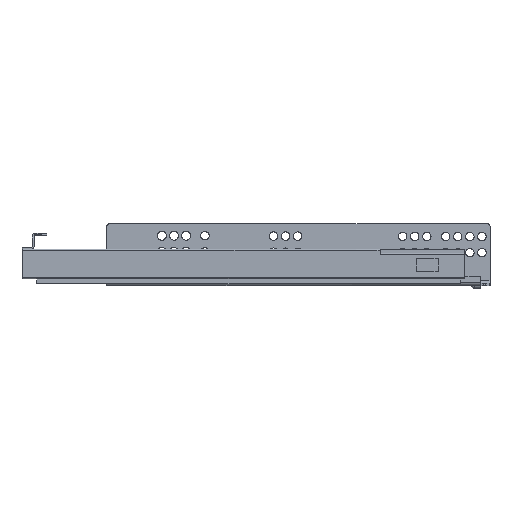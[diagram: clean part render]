
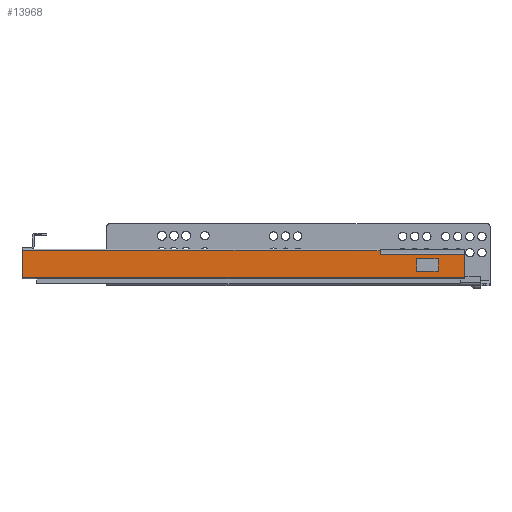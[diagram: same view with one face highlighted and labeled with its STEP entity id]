
A CAD part, top view. The second image highlights one B-rep face of the part: STEP entity #13968.
In plain terms, the highlighted planar face has unit normal (0, 0, 1).
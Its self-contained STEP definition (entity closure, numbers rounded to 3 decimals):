
#201 = CARTESIAN_POINT ( 'NONE',  ( 78.8, 10., 92.03 ) ) ;
#248 = EDGE_CURVE ( 'NONE', #11210, #11890, #13727, .T. ) ;
#454 = CARTESIAN_POINT ( 'NONE',  ( 58.9, 20., 92.03 ) ) ;
#570 = VERTEX_POINT ( 'NONE', #10539 ) ;
#658 = EDGE_CURVE ( 'NONE', #13321, #6454, #8903, .T. ) ;
#726 = EDGE_CURVE ( 'NONE', #570, #10267, #4033, .T. ) ;
#818 = CARTESIAN_POINT ( 'NONE',  ( -250.5, 28.47, 92.03 ) ) ;
#819 = VERTEX_POINT ( 'NONE', #5422 ) ;
#1014 = EDGE_CURVE ( 'NONE', #6348, #3933, #9754, .T. ) ;
#1160 = LINE ( 'NONE', #11801, #4084 ) ;
#1330 = PLANE ( 'NONE',  #7016 ) ;
#1557 = EDGE_CURVE ( 'NONE', #1791, #3933, #10288, .T. ) ;
#1577 = DIRECTION ( 'NONE',  ( 1., 0., 0. ) ) ;
#1582 = CARTESIAN_POINT ( 'NONE',  ( 8.8, 26., 92.03 ) ) ;
#1583 = CARTESIAN_POINT ( 'NONE',  ( -89.874, 26.03, 92.03 ) ) ;
#1791 = VERTEX_POINT ( 'NONE', #9990 ) ;
#1972 = EDGE_LOOP ( 'NONE', ( #7336, #8027, #6189, #11877, #5140, #11056, #10042, #12791, #8366, #10331 ) ) ;
#1978 = CARTESIAN_POINT ( 'NONE',  ( 8.8, 26.02, 92.03 ) ) ;
#2023 = CARTESIAN_POINT ( 'NONE',  ( 8.8, 26.03, 92.03 ) ) ;
#2028 = CARTESIAN_POINT ( 'NONE',  ( -150.5, 23.03, 92.03 ) ) ;
#2223 = ORIENTED_EDGE ( 'NONE', *, *, #8202, .T. ) ;
#2368 = CARTESIAN_POINT ( 'NONE',  ( -89.874, 26.03, 92.03 ) ) ;
#2435 = DIRECTION ( 'NONE',  ( 0., 0., 1. ) ) ;
#2536 = DIRECTION ( 'NONE',  ( -1., 0., 0. ) ) ;
#2560 = LINE ( 'NONE', #10114, #5815 ) ;
#2697 = DIRECTION ( 'NONE',  ( 0., 1., 0. ) ) ;
#2970 = B_SPLINE_CURVE_WITH_KNOTS ( 'NONE', 3,
 ( #13997, #6335, #1978, #9633 ),
 .UNSPECIFIED., .F., .F.,
 ( 4, 4 ),
 ( 0., 1. ),
 .UNSPECIFIED. ) ;
#3217 = EDGE_CURVE ( 'NONE', #10267, #11890, #11694, .T. ) ;
#3488 = CARTESIAN_POINT ( 'NONE',  ( -199.68, 26.03, 92.03 ) ) ;
#3560 = DIRECTION ( 'NONE',  ( -1., 0., 0. ) ) ;
#3933 = VERTEX_POINT ( 'NONE', #12019 ) ;
#4033 = B_SPLINE_CURVE_WITH_KNOTS ( 'NONE', 3,
 ( #2368, #8928, #10038, #3488 ),
 .UNSPECIFIED., .F., .F.,
 ( 4, 4 ),
 ( 0.36, 0.625 ),
 .UNSPECIFIED. ) ;
#4084 = VECTOR ( 'NONE', #4159, 1000. ) ;
#4159 = DIRECTION ( 'NONE',  ( 0., 1., 0. ) ) ;
#4303 = CARTESIAN_POINT ( 'NONE',  ( -250.5, 26.03, 92.03 ) ) ;
#4457 = VERTEX_POINT ( 'NONE', #4925 ) ;
#4519 = VECTOR ( 'NONE', #2536, 1000. ) ;
#4844 = CARTESIAN_POINT ( 'NONE',  ( -24.091, 26.03, 92.03 ) ) ;
#4925 = CARTESIAN_POINT ( 'NONE',  ( 42.9, 10.5, 92.03 ) ) ;
#5140 = ORIENTED_EDGE ( 'NONE', *, *, #726, .T. ) ;
#5295 = LINE ( 'NONE', #2028, #11608 ) ;
#5422 = CARTESIAN_POINT ( 'NONE',  ( 78.8, 23.03, 92.03 ) ) ;
#5578 = CARTESIAN_POINT ( 'NONE',  ( 42.9, 20., 92.03 ) ) ;
#5616 = VECTOR ( 'NONE', #1577, 1000. ) ;
#5724 = LINE ( 'NONE', #201, #11546 ) ;
#5763 = DIRECTION ( 'NONE',  ( 1., 0., 0. ) ) ;
#5775 = CARTESIAN_POINT ( 'NONE',  ( 58.9, 20., 92.03 ) ) ;
#5815 = VECTOR ( 'NONE', #3560, 1000. ) ;
#6000 = VECTOR ( 'NONE', #6622, 1000. ) ;
#6189 = ORIENTED_EDGE ( 'NONE', *, *, #13121, .T. ) ;
#6335 = CARTESIAN_POINT ( 'NONE',  ( 8.8, 26.01, 92.03 ) ) ;
#6348 = VERTEX_POINT ( 'NONE', #1582 ) ;
#6401 = CARTESIAN_POINT ( 'NONE',  ( -199.68, 26.03, 92.03 ) ) ;
#6454 = VERTEX_POINT ( 'NONE', #9498 ) ;
#6622 = DIRECTION ( 'NONE',  ( 0., -1., 0. ) ) ;
#6785 = CARTESIAN_POINT ( 'NONE',  ( -334.252, 23.03, 92.03 ) ) ;
#7016 = AXIS2_PLACEMENT_3D ( 'NONE', #6785, #2435, #10100 ) ;
#7270 = CARTESIAN_POINT ( 'NONE',  ( 78.8, 5.9, 92.03 ) ) ;
#7336 = ORIENTED_EDGE ( 'NONE', *, *, #1557, .T. ) ;
#7355 = ORIENTED_EDGE ( 'NONE', *, *, #8387, .T. ) ;
#7548 = VECTOR ( 'NONE', #13995, 1000. ) ;
#7571 = CARTESIAN_POINT ( 'NONE',  ( -250.5, 26.03, 92.03 ) ) ;
#7762 = FACE_OUTER_BOUND ( 'NONE', #1972, .T. ) ;
#7800 = CARTESIAN_POINT ( 'NONE',  ( -199.68, 26.03, 92.03 ) ) ;
#7882 = DIRECTION ( 'NONE',  ( 0., 1., 0. ) ) ;
#8027 = ORIENTED_EDGE ( 'NONE', *, *, #1014, .F. ) ;
#8134 = CARTESIAN_POINT ( 'NONE',  ( -56.983, 26.03, 92.03 ) ) ;
#8202 = EDGE_CURVE ( 'NONE', #6454, #4457, #2560, .T. ) ;
#8366 = ORIENTED_EDGE ( 'NONE', *, *, #13223, .T. ) ;
#8387 = EDGE_CURVE ( 'NONE', #4457, #8464, #1160, .T. ) ;
#8464 = VERTEX_POINT ( 'NONE', #5578 ) ;
#8526 = LINE ( 'NONE', #454, #5616 ) ;
#8570 = EDGE_CURVE ( 'NONE', #8464, #13321, #8526, .T. ) ;
#8653 = EDGE_LOOP ( 'NONE', ( #11751, #2223, #7355, #9558 ) ) ;
#8903 = LINE ( 'NONE', #12081, #6000 ) ;
#8928 = CARTESIAN_POINT ( 'NONE',  ( -126.476, 26.03, 92.03 ) ) ;
#9177 = EDGE_CURVE ( 'NONE', #1791, #819, #5295, .T. ) ;
#9240 = CARTESIAN_POINT ( 'NONE',  ( 15.8, 24., 92.03 ) ) ;
#9416 = VECTOR ( 'NONE', #5763, 1000. ) ;
#9498 = CARTESIAN_POINT ( 'NONE',  ( 58.9, 10.5, 92.03 ) ) ;
#9558 = ORIENTED_EDGE ( 'NONE', *, *, #8570, .T. ) ;
#9633 = CARTESIAN_POINT ( 'NONE',  ( 8.8, 26.03, 92.03 ) ) ;
#9754 = LINE ( 'NONE', #11138, #9416 ) ;
#9990 = CARTESIAN_POINT ( 'NONE',  ( 15.8, 23.03, 92.03 ) ) ;
#10005 = LINE ( 'NONE', #12392, #4519 ) ;
#10038 = CARTESIAN_POINT ( 'NONE',  ( -163.078, 26.03, 92.03 ) ) ;
#10042 = ORIENTED_EDGE ( 'NONE', *, *, #248, .F. ) ;
#10100 = DIRECTION ( 'NONE',  ( 0., 1., 0. ) ) ;
#10114 = CARTESIAN_POINT ( 'NONE',  ( 58.9, 10.5, 92.03 ) ) ;
#10145 = B_SPLINE_CURVE_WITH_KNOTS ( 'NONE', 3,
 ( #13590, #4844, #8134, #1583 ),
 .UNSPECIFIED., .F., .F.,
 ( 4, 4 ),
 ( 0.015, 0.252 ),
 .UNSPECIFIED. ) ;
#10267 = VERTEX_POINT ( 'NONE', #7800 ) ;
#10288 = LINE ( 'NONE', #9240, #12824 ) ;
#10331 = ORIENTED_EDGE ( 'NONE', *, *, #9177, .F. ) ;
#10357 = FACE_BOUND ( 'NONE', #8653, .T. ) ;
#10539 = CARTESIAN_POINT ( 'NONE',  ( -89.874, 26.03, 92.03 ) ) ;
#10870 = CARTESIAN_POINT ( 'NONE',  ( -233.56, 26.03, 92.03 ) ) ;
#11056 = ORIENTED_EDGE ( 'NONE', *, *, #3217, .T. ) ;
#11138 = CARTESIAN_POINT ( 'NONE',  ( -150.5, 26., 92.03 ) ) ;
#11210 = VERTEX_POINT ( 'NONE', #13299 ) ;
#11374 = VERTEX_POINT ( 'NONE', #7270 ) ;
#11546 = VECTOR ( 'NONE', #7882, 1000. ) ;
#11608 = VECTOR ( 'NONE', #12944, 1000. ) ;
#11694 = B_SPLINE_CURVE_WITH_KNOTS ( 'NONE', 3,
 ( #6401, #14013, #10870, #4303 ),
 .UNSPECIFIED., .F., .F.,
 ( 4, 4 ),
 ( 0.878, 1. ),
 .UNSPECIFIED. ) ;
#11751 = ORIENTED_EDGE ( 'NONE', *, *, #658, .T. ) ;
#11801 = CARTESIAN_POINT ( 'NONE',  ( 42.9, 20., 92.03 ) ) ;
#11877 = ORIENTED_EDGE ( 'NONE', *, *, #12932, .T. ) ;
#11890 = VERTEX_POINT ( 'NONE', #7571 ) ;
#12019 = CARTESIAN_POINT ( 'NONE',  ( 15.8, 26., 92.03 ) ) ;
#12081 = CARTESIAN_POINT ( 'NONE',  ( 58.9, 20., 92.03 ) ) ;
#12392 = CARTESIAN_POINT ( 'NONE',  ( -334.252, 5.9, 92.03 ) ) ;
#12460 = EDGE_CURVE ( 'NONE', #11374, #11210, #10005, .T. ) ;
#12791 = ORIENTED_EDGE ( 'NONE', *, *, #12460, .F. ) ;
#12824 = VECTOR ( 'NONE', #2697, 1000. ) ;
#12932 = EDGE_CURVE ( 'NONE', #13220, #570, #10145, .T. ) ;
#12944 = DIRECTION ( 'NONE',  ( 1., 0., 0. ) ) ;
#13121 = EDGE_CURVE ( 'NONE', #6348, #13220, #2970, .T. ) ;
#13220 = VERTEX_POINT ( 'NONE', #2023 ) ;
#13223 = EDGE_CURVE ( 'NONE', #11374, #819, #5724, .T. ) ;
#13299 = CARTESIAN_POINT ( 'NONE',  ( -250.5, 5.9, 92.03 ) ) ;
#13321 = VERTEX_POINT ( 'NONE', #5775 ) ;
#13590 = CARTESIAN_POINT ( 'NONE',  ( 8.8, 26.03, 92.03 ) ) ;
#13727 = LINE ( 'NONE', #818, #7548 ) ;
#13968 = ADVANCED_FACE ( 'NONE', ( #7762, #10357 ), #1330, .T. ) ;
#13995 = DIRECTION ( 'NONE',  ( 0., 1., 0. ) ) ;
#13997 = CARTESIAN_POINT ( 'NONE',  ( 8.8, 26., 92.03 ) ) ;
#14013 = CARTESIAN_POINT ( 'NONE',  ( -216.62, 26.03, 92.03 ) ) ;
